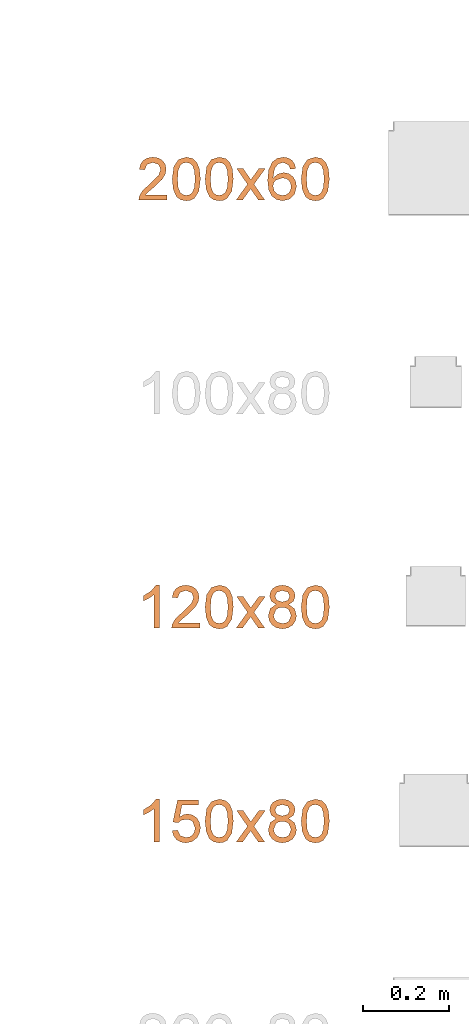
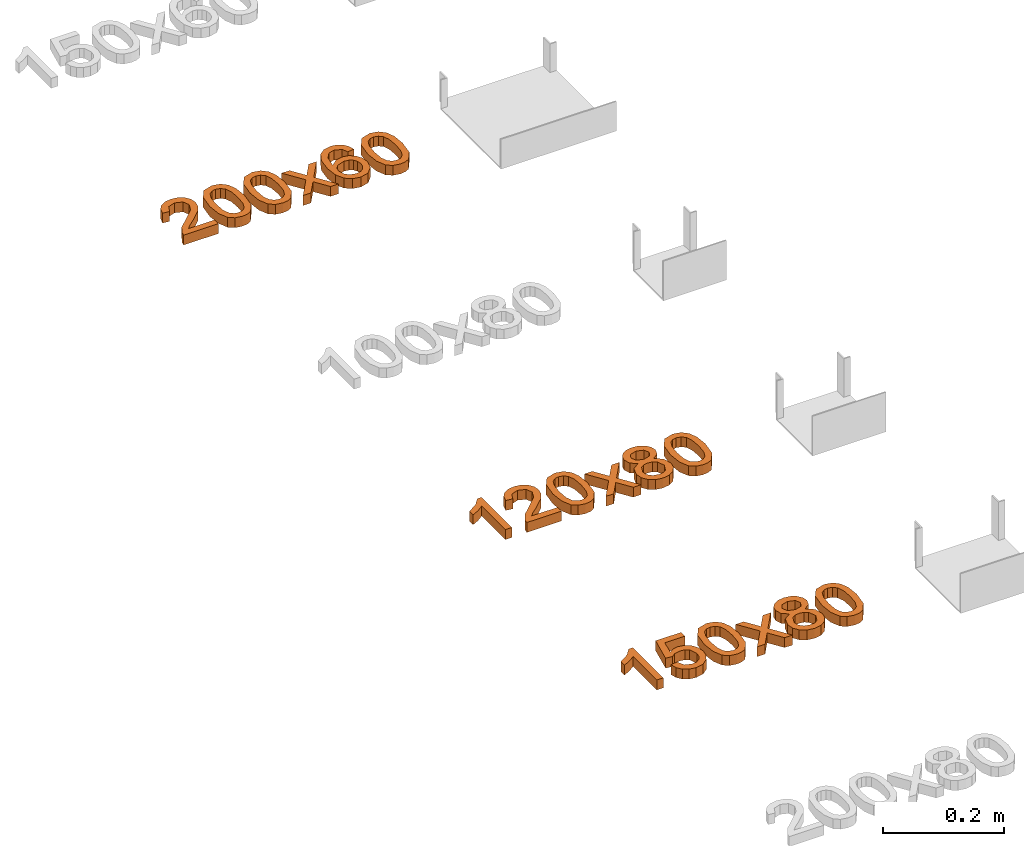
# One storey, part 54 of 71: 3 proxies.
"""IFC2X3 building model written with IfcOpenShell, lengths in millimetres."""

from ifc_helpers import new_model, entity, si_unit, converted_unit, derived_unit, direction, frame, origin, place, context, subcontext, project, spatial, polyline, outline, extrude, element, save


model = new_model("IFC2X3")

# Units and contexts
model_context = context("Model", 3, precision=0.01, world=origin(), true_north=direction((6.12303176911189e-17, 1.0)))
body_context = subcontext(model_context, "Body", "Model", "MODEL_VIEW")
ifc_project = project(units=[si_unit("LENGTHUNIT", "METRE", prefix="MILLI"), si_unit("AREAUNIT", "SQUARE_METRE"), si_unit("VOLUMEUNIT", "CUBIC_METRE"), converted_unit("PLANEANGLEUNIT", "DEGREE", entity("IfcRatioMeasure", 0.0174532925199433), si_unit("PLANEANGLEUNIT", "RADIAN"), dimensions=[0, 0, 0, 0, 0, 0, 0]), si_unit("MASSUNIT", "GRAM", prefix="KILO"), derived_unit("MASSDENSITYUNIT", [(si_unit("MASSUNIT", "GRAM", prefix="KILO"), 1), (si_unit("LENGTHUNIT", "METRE"), -3)]), si_unit("TIMEUNIT", "SECOND"), si_unit("FREQUENCYUNIT", "HERTZ"), si_unit("THERMODYNAMICTEMPERATUREUNIT", "DEGREE_CELSIUS"), derived_unit("THERMALTRANSMITTANCEUNIT", [(si_unit("MASSUNIT", "GRAM", prefix="KILO"), 1), (si_unit("THERMODYNAMICTEMPERATUREUNIT", "KELVIN"), -1), (si_unit("TIMEUNIT", "SECOND"), -3)]), derived_unit("VOLUMETRICFLOWRATEUNIT", [(si_unit("LENGTHUNIT", "METRE"), 3), (si_unit("TIMEUNIT", "SECOND"), -1)]), si_unit("ELECTRICCURRENTUNIT", "AMPERE"), si_unit("ELECTRICVOLTAGEUNIT", "VOLT"), si_unit("POWERUNIT", "WATT"), si_unit("FORCEUNIT", "NEWTON", prefix="KILO"), si_unit("ILLUMINANCEUNIT", "LUX"), si_unit("LUMINOUSFLUXUNIT", "LUMEN"), si_unit("LUMINOUSINTENSITYUNIT", "CANDELA"), derived_unit("USERDEFINED", [(si_unit("MASSUNIT", "GRAM", prefix="KILO"), -1), (si_unit("LENGTHUNIT", "METRE"), -2), (si_unit("TIMEUNIT", "SECOND"), 3), (si_unit("LUMINOUSFLUXUNIT", "LUMEN"), 1)]), derived_unit("LINEARVELOCITYUNIT", [(si_unit("LENGTHUNIT", "METRE"), 1), (si_unit("TIMEUNIT", "SECOND"), -1)]), si_unit("PRESSUREUNIT", "PASCAL"), derived_unit("USERDEFINED", [(si_unit("LENGTHUNIT", "METRE"), -2), (si_unit("MASSUNIT", "GRAM", prefix="KILO"), 1), (si_unit("TIMEUNIT", "SECOND"), -2)])], contexts=[model_context])

# Site, building, storey
site_placement = place(None, origin())
site = spatial("IfcSite", under=ifc_project, at=site_placement, Name="Default", CompositionType="ELEMENT")
building_placement = place(site_placement, origin())
building = spatial("IfcBuilding", under=site, at=building_placement, Name="Наименование здания", CompositionType="ELEMENT")
storey_placement = place(building_placement, origin())
storey = spatial("IfcBuildingStorey", under=building, at=storey_placement, Name="Этаж 01", CompositionType="ELEMENT", Elevation=0.0)

# Proxies
proxy_1_placement = place(storey_placement, origin())
element("IfcBuildingElementProxy", 1, at=proxy_1_placement, inside=storey, Name="Текст модели:100 мм Arial", ObjectType="Текст модели:100 мм Arial", context=body_context, shape_type="SweptSolid", body=[
    extrude(outline(polyline([(-32.3858783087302, -45.1669477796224), (-32.3858783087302, -57.7239865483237), (33.5385752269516, -57.7239865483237), (32.1896745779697, -49.0664969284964), (24.5622545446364, -35.736905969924), (8.84143061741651, -21.1810416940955), (-12.8390816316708, -0.260818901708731), (-18.2592096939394, 13.9639515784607), (-13.1456499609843, 25.4786580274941), (0.208466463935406, 30.1752848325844), (14.1266686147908, 25.5890226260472), (19.4119066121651, 12.9093565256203), (31.9689453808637, 14.4789863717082), (28.9247218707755, 26.6252235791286), (22.3426998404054, 35.4973110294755), (12.5662358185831, 40.9235704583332), (-0.0613136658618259, 42.7323236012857), (-12.7808336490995, 40.7212353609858), (-22.5389035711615, 34.6879706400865), (-28.746912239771, 25.6748617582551), (-30.8162484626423, 14.7242410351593), (-28.5844310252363, 2.81712712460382), (-21.1654774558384, -9.49465698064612), (-3.17604789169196, -26.6992716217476), (11.2694517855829, -38.778063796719), (16.9348345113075, -45.1669477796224), (-32.3858783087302, -45.1669477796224)])), frame((21212.4125507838, -2405.61126925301, 0.0), z_axis=(0.0, 0.0, -1.0), x_axis=(-1.0, 0.0, 0.0)), (0.0, 0.0, -1.0), 20.0),
    extrude(outline(polyline([(-7.02884310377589, -33.3490673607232), (17.5323805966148, -33.3490673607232), (35.1984171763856, -27.6137612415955), (43.3439841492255, -18.4876517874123), (47.0516941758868, -5.7515066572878), (46.7162020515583, 4.48638208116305), (43.4465778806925, 13.0955287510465), (27.9444305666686, 25.6659118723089), (-0.314338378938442, 32.2325535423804), (-24.0296505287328, 32.367828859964), (-39.4143020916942, 28.0260881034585), (-49.7293680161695, 18.9002174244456), (-54.4436715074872, 4.63998875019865), (-50.8676582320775, -14.1301059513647), (-35.405854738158, -26.7333390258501), (-7.02884310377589, -33.3490673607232)]), holes=[polyline([(-5.77428774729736, -20.8548320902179), (-25.0157644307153, -17.3562860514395), (-36.7257089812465, -11.5717922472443), (-41.0962588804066, -4.77599682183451), (-41.9669219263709, 3.21464792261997), (-39.2244253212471, 11.2791292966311), (-32.8654063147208, 17.2229259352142), (-20.9698370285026, 20.2947501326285), (-1.61768958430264, 19.743314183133), (17.8514140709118, 16.270770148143), (28.7803640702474, 10.7141596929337), (33.554698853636, 3.61815959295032), (34.5599568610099, -4.47255337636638), (31.9421230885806, -12.192319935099), (25.8471825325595, -18.1754808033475), (14.0250679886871, -21.4027476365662), (-5.77428774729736, -20.8548320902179)])]), frame((21291.2470054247, -2417.512078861, 0.0), z_axis=(0.0, 0.0, 1.0), x_axis=(0.101851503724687, -0.994799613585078, 0.0)), (0.0, 0.0, 1.0), 20.0),
    extrude(outline(polyline([(-7.02884310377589, -33.3490673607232), (17.5323805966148, -33.3490673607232), (35.1984171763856, -27.6137612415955), (43.3439841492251, -18.4876517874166), (47.0516941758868, -5.7515066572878), (46.7162020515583, 4.48638208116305), (43.4465778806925, 13.0955287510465), (27.9444305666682, 25.6659118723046), (-0.314338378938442, 32.2325535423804), (-24.0296505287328, 32.367828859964), (-39.4143020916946, 28.0260881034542), (-49.7293680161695, 18.9002174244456), (-54.4436715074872, 4.63998875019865), (-50.867658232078, -14.130105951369), (-35.405854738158, -26.7333390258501), (-7.02884310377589, -33.3490673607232)]), holes=[polyline([(-5.7742877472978, -20.8548320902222), (-25.0157644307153, -17.3562860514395), (-36.7257089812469, -11.5717922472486), (-41.096258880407, -4.77599682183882), (-41.9669219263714, 3.21464792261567), (-39.2244253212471, 11.2791292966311), (-32.8654063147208, 17.2229259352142), (-20.969837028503, 20.2947501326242), (-1.61768958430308, 19.7433141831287), (17.8514140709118, 16.270770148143), (28.7803640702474, 10.7141596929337), (33.5546988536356, 3.61815959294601), (34.5599568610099, -4.47255337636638), (31.9421230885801, -12.1923199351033), (25.8471825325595, -18.1754808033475), (14.0250679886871, -21.4027476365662), (-5.7742877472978, -20.8548320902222)])]), frame((21368.158867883, -2417.512078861, 0.0), z_axis=(0.0, 0.0, 1.0), x_axis=(0.101851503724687, -0.994799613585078, 0.0)), (0.0, 0.0, 1.0), 20.0),
    extrude(outline(polyline([(-34.5302215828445, -38.4265006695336), (-19.4225343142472, -38.4265006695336), (-0.341721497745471, -12.0616243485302), (2.47870713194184, -16.1328517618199), (17.8561745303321, -38.4265006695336), (32.9638617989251, -38.4265006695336), (7.40832586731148, -1.34399555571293), (33.9448804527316, 35.3461020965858), (18.8371931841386, 35.3461020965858), (4.95577923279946, 16.1671874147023), (0.0261604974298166, 9.34910777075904), (-5.66374769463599, 17.6877663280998), (-17.8529044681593, 35.3461020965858), (-32.9605917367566, 35.3461020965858), (-7.69936140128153, -1.34399555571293), (-34.5302215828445, -38.4265006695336)])), frame((21441.0005248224, -2424.9087551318, 0.0)), (0.0, 0.0, 1.0), 20.0),
    extrude(outline(polyline([(6.79275401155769, -32.502776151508), (18.3659045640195, -32.502776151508), (28.1525204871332, -28.8011371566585), (35.6312934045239, -21.7178704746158), (40.2809149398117, -11.5729874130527), (41.4130789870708, 3.23667074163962), (36.1391243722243, 16.3729018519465), (21.8599739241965, 28.880326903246), (-1.50836821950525, 38.2054593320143), (-23.6059131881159, 41.7609274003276), (-39.9814227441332, 38.5965283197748), (-51.1650797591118, 29.9216784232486), (-57.6870671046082, 16.945794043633), (-57.9805556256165, -0.0494879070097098), (-49.2081886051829, -14.3141019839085), (-33.6167855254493, -22.9350568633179), (-20.6265742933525, -24.2502330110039), (-8.97800352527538, -20.6254922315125), (0.0919027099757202, -13.0350962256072), (5.34612034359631, -2.45330669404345), (5.85483161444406, 11.6447254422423), (-0.843339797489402, 24.9910631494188), (19.7707676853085, 15.5765036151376), (28.4840991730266, 4.26766164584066), (28.389351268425, -7.46374532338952), (19.9956250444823, -18.1936336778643), (8.63303585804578, -19.982539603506), (6.79275401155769, -32.502776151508)]), holes=[polyline([(-18.7586717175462, 29.954959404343), (-11.6328110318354, 26.3613362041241), (-6.94154076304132, 20.2038317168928), (-5.85783236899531, 4.13761066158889), (-9.48331864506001, -3.95286412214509), (-15.107739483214, -9.26901644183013), (-22.3091633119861, -11.5969098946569), (-30.6656585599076, -10.7226080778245), (-38.6094491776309, -7.06141592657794), (-43.8637090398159, -1.22509865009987), (-46.1835287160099, 6.17768396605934), (-45.3239987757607, 14.5382721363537), (-39.6901171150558, 24.7221971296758), (-30.0168134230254, 30.0585493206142), (-18.7586717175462, 29.954959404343)])]), frame((21516.6584546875, -2404.78751753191, 0.0), z_axis=(0.0, 0.0, 1.0), x_axis=(-0.267015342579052, 0.963692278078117, 0.0)), (0.0, 0.0, 1.0), 20.0),
    extrude(outline(polyline([(-7.02884310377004, -33.3490673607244), (17.5323805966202, -33.3490673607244), (35.1984171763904, -27.6137612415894), (43.3439841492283, -18.487651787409), (47.0516941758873, -5.75150665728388), (46.716202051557, 4.48638208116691), (43.4465778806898, 13.0955287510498), (27.9444305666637, 25.6659118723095), (-0.314338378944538, 32.2325535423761), (-24.0296505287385, 32.3678288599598), (-39.4143020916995, 28.0260881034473), (-49.7293680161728, 18.9002174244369), (-54.4436715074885, 4.63998875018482), (-50.8676582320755, -14.1301059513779), (-35.4058547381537, -26.7333390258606), (-7.02884310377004, -33.3490673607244)]), holes=[polyline([(-5.77428774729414, -20.8548320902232), (-25.0157644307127, -17.3562860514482), (-36.7257089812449, -11.5717922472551), (-41.0962588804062, -4.77599682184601), (-41.966921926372, 3.21464792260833), (-39.2244253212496, 11.2791292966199), (-32.8654063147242, 17.2229259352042), (-20.9698370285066, 20.2947501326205), (-1.61768958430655, 19.7433141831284), (17.8514140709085, 16.2707701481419), (28.7803640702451, 10.7141596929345), (33.5546988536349, 3.61815959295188), (34.5599568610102, -4.47255337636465), (31.9421230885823, -12.1923199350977), (25.8471825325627, -18.175480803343), (14.0250679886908, -21.4027476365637), (-5.77428774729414, -20.8548320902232)])]), frame((21592.6159358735, -2417.512078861, 0.0), z_axis=(0.0, 0.0, 1.0), x_axis=(0.101851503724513, -0.994799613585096, 0.0)), (0.0, 0.0, 1.0), 20.0),
])
proxy_2_placement = place(storey_placement, origin())
element("IfcBuildingElementProxy", 2, at=proxy_2_placement, inside=storey, Name="Текст модели:100 мм Arial", ObjectType="Текст модели:100 мм Arial", context=body_context, shape_type="SweptSolid", body=[
    extrude(outline(polyline([(-63.8793021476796, -16.918484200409), (36.5770080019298, -16.918484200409), (36.5770080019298, -8.82508030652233), (23.2106288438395, 2.34626961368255), (11.4629304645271, 20.7526321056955), (-0.407395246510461, 20.7526321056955), (5.93243780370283, 7.53340574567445), (14.4059864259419, -4.36144543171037), (-63.8793021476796, -4.36144543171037), (-63.8793021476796, -16.918484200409)])), frame((21210.6140165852, -3399.45595365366, 0.0), z_axis=(0.0, 0.0, 1.0), x_axis=(0.0, 1.0, 0.0)), (0.0, 0.0, 1.0), 20.0),
    extrude(outline(polyline([(-32.3858783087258, -45.1669477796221), (-32.3858783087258, -57.7239865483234), (33.5385752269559, -57.7239865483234), (32.1896745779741, -49.0664969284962), (24.5622545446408, -35.7369059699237), (8.84143061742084, -21.1810416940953), (-12.8390816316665, -0.26081890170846), (-18.2592096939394, 13.9639515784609), (-13.1456499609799, 25.4786580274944), (0.208466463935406, 30.1752848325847), (14.1266686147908, 25.5890226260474), (19.4119066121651, 12.9093565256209), (31.968945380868, 14.4789863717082), (28.9247218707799, 26.6252235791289), (22.3426998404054, 35.4973110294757), (12.5662358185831, 40.9235704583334), (-0.0613136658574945, 42.732323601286), (-12.7808336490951, 40.721235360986), (-22.5389035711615, 34.6879706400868), (-28.746912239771, 25.6748617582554), (-30.816248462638, 14.7242410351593), (-28.584431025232, 2.81712712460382), (-21.1654774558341, -9.49465698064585), (-3.17604789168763, -26.6992716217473), (11.2694517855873, -38.7780637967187), (16.9348345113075, -45.1669477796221), (-32.3858783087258, -45.1669477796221)])), frame((21289.3244132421, -3405.61126925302, 0.0), z_axis=(0.0, 0.0, -1.0), x_axis=(-1.0, 0.0, 0.0)), (0.0, 0.0, -1.0), 20.0),
    extrude(outline(polyline([(-7.02884310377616, -33.3490673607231), (17.5323805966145, -33.3490673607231), (35.1984171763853, -27.6137612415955), (43.3439841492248, -18.4876517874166), (47.0516941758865, -5.75150665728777), (46.716202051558, 4.48638208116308), (43.4465778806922, 13.0955287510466), (27.9444305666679, 25.6659118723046), (-0.314338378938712, 32.2325535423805), (-24.0296505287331, 32.367828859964), (-39.4143020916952, 28.0260881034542), (-49.7293680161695, 18.9002174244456), (-54.4436715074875, 4.63998875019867), (-50.867658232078, -14.130105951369), (-35.405854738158, -26.7333390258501), (-7.02884310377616, -33.3490673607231)]), holes=[polyline([(-5.77428774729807, -20.8548320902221), (-25.0157644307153, -17.3562860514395), (-36.7257089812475, -11.5717922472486), (-41.0962588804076, -4.77599682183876), (-41.9669219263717, 3.21464792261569), (-39.2244253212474, 11.2791292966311), (-32.8654063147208, 17.2229259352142), (-20.969837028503, 20.2947501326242), (-1.61768958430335, 19.7433141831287), (17.8514140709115, 16.2707701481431), (28.7803640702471, 10.7141596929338), (33.5546988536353, 3.61815959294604), (34.5599568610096, -4.47255337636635), (31.9421230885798, -12.1923199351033), (25.8471825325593, -18.1754808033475), (14.0250679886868, -21.4027476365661), (-5.77428774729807, -20.8548320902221)])]), frame((21368.158867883, -3417.51207886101, 0.0), z_axis=(0.0, 0.0, 1.0), x_axis=(0.101851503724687, -0.994799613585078, 0.0)), (0.0, 0.0, 1.0), 20.0),
    extrude(outline(polyline([(-34.5302215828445, -38.4265006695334), (-19.4225343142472, -38.4265006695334), (-0.341721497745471, -12.0616243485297), (2.47870713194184, -16.1328517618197), (17.8561745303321, -38.4265006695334), (32.9638617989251, -38.4265006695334), (7.40832586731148, -1.34399555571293), (33.9448804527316, 35.3461020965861), (18.8371931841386, 35.3461020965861), (4.95577923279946, 16.1671874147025), (0.0261604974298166, 9.34910777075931), (-5.66374769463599, 17.6877663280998), (-17.8529044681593, 35.3461020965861), (-32.9605917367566, 35.3461020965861), (-7.69936140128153, -1.34399555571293), (-34.5302215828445, -38.4265006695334)])), frame((21441.0005248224, -3424.90875513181, 0.0)), (0.0, 0.0, 1.0), 20.0),
    extrude(outline(polyline([(10.1224324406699, -11.221212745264), (26.4477736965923, -11.221212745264), (39.6861381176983, -0.0909413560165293), (44.632231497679, 11.3078156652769), (44.585641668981, 23.4168603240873), (39.6073830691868, 34.8346290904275), (29.7584701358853, 44.159558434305), (17.4236057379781, 49.795656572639), (4.9874927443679, 50.1469317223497), (-6.20047708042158, 45.7236060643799), (-14.7909119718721, 37.0359017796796), (-20.0781666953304, 21.0056847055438), (-14.5070621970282, 5.37692494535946), (-28.0684052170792, 5.15563707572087), (-37.7221714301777, -2.60845010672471), (-41.523636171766, -11.9357006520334), (-41.003687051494, -22.2232653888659), (-36.1916154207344, -32.1870777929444), (-27.1167126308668, -40.5430713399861), (-16.0503295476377, -45.8123091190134), (-5.18246445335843, -46.570678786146), (4.38453303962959, -43.2361071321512), (11.5483133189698, -36.2265209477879), (15.2516244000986, -24.0826582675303), (10.1224324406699, -11.221212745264)]), holes=[polyline([(1.3407747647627, -28.9039041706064), (-7.53771017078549, -33.9815875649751), (-20.2415350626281, -30.0339976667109), (-28.5905650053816, -19.6902819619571), (-26.9800933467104, -9.13787919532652), (-18.1108932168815, -3.87648928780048), (-5.45128168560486, -7.8238581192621), (3.15927028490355, -18.2403048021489), (1.3407747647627, -28.9039041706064)]), polyline([(29.0262968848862, 6.5605166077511), (17.1806533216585, -1.51571690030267), (9.68494123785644, -1.27757268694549), (1.95268767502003, 2.32885586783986), (-4.46267094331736, 8.27886886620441), (-7.64161156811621, 15.301055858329), (-4.59707955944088, 29.6929468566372), (7.31333657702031, 37.7994665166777), (14.8367372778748, 37.4872096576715), (22.6595729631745, 33.8012523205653), (30.3730358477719, 25.5864099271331), (32.5711030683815, 15.5727469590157), (29.0262968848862, 6.5605166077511)])]), frame((21514.7737407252, -3411.65422231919, 0.0), z_axis=(0.0, 0.0, 1.0), x_axis=(-0.829266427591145, -0.558853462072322, 0.0)), (0.0, 0.0, 1.0), 20.0),
    extrude(outline(polyline([(-7.02884310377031, -33.3490673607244), (17.5323805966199, -33.3490673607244), (35.1984171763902, -27.6137612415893), (43.343984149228, -18.487651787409), (47.0516941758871, -5.75150665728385), (46.7162020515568, 4.48638208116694), (43.4465778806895, 13.0955287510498), (27.9444305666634, 25.6659118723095), (-0.314338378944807, 32.2325535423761), (-24.0296505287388, 32.3678288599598), (-39.4143020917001, 28.0260881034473), (-49.7293680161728, 18.9002174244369), (-54.4436715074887, 4.63998875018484), (-50.8676582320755, -14.1301059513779), (-35.4058547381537, -26.7333390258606), (-7.02884310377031, -33.3490673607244)]), holes=[polyline([(-5.77428774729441, -20.8548320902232), (-25.0157644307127, -17.3562860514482), (-36.7257089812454, -11.571792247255), (-41.0962588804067, -4.77599682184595), (-41.9669219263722, 3.21464792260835), (-39.2244253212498, 11.27912929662), (-32.8654063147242, 17.2229259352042), (-20.9698370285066, 20.2947501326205), (-1.61768958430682, 19.7433141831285), (17.8514140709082, 16.2707701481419), (28.7803640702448, 10.7141596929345), (33.5546988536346, 3.61815959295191), (34.5599568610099, -4.47255337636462), (31.942123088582, -12.1923199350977), (25.8471825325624, -18.1754808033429), (14.0250679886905, -21.4027476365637), (-5.77428774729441, -20.8548320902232)])]), frame((21592.6159358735, -3417.51207886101, 0.0), z_axis=(0.0, 0.0, 1.0), x_axis=(0.101851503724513, -0.994799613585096, 0.0)), (0.0, 0.0, 1.0), 20.0),
])
proxy_3_placement = place(storey_placement, origin())
element("IfcBuildingElementProxy", 3, at=proxy_3_placement, inside=storey, Name="Текст модели:100 мм Arial", ObjectType="Текст модели:100 мм Arial", context=body_context, shape_type="SweptSolid", body=[
    extrude(outline(polyline([(-63.8793021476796, -16.918484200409), (36.5770080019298, -16.918484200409), (36.5770080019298, -8.82508030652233), (23.2106288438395, 2.34626961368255), (11.4629304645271, 20.7526321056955), (-0.407395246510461, 20.7526321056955), (5.93243780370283, 7.53340574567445), (14.4059864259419, -4.36144543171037), (-63.8793021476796, -4.36144543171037), (-63.8793021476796, -16.918484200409)])), frame((21210.6140165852, -3899.45595365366, 0.0), z_axis=(0.0, 0.0, 1.0), x_axis=(0.0, 1.0, 0.0)), (0.0, 0.0, 1.0), 20.0),
    extrude(outline(polyline([(3.81439562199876, -37.2548959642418), (15.7323946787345, -37.2548959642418), (26.1588137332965, -33.0579698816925), (34.2921694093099, -25.0537205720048), (39.3309783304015, -13.63175089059), (40.2219288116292, 1.43409098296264), (34.3991305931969, 14.6815107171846), (25.5350217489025, 23.1481891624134), (13.9054384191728, 28.2770976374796), (0.912111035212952, 29.4702838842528), (-10.7159258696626, 25.7768606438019), (-19.7427074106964, 18.0989984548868), (-24.9322687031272, 7.33886785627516), (-25.5937300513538, -2.21124798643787), (-22.6370240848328, -12.2793380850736), (-47.9924930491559, 0.0204883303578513), (-38.0977082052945, 37.2324069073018), (-50.2330599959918, 40.4592412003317), (-62.7370428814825, -6.56524698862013), (-15.5021967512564, -30.4943712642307), (-10.7584434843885, -18.76237376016), (-14.4216298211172, -10.4922324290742), (-13.6981616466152, 0.722667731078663), (-9.98738154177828, 9.35727561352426), (-4.32553373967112, 14.6878856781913), (11.4370636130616, 15.9400687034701), (19.7481682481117, 12.2772427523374), (25.4355726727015, 6.40632241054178), (28.0665145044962, -1.27212018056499), (27.2082313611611, -10.3575128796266), (19.6530635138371, -21.9256319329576), (5.52431094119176, -24.7161898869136), (3.81439562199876, -37.2548959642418)])), frame((21292.3790792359, -3923.3917017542, 0.0), z_axis=(0.0, 0.0, 1.0), x_axis=(0.256974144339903, -0.966418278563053, 0.0)), (0.0, 0.0, 1.0), 20.0),
    extrude(outline(polyline([(-7.02884310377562, -33.3490673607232), (17.5323805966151, -33.3490673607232), (35.1984171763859, -27.6137612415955), (43.3439841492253, -18.4876517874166), (47.051694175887, -5.75150665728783), (46.7162020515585, 4.48638208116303), (43.4465778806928, 13.0955287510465), (27.9444305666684, 25.6659118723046), (-0.314338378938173, 32.2325535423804), (-24.0296505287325, 32.367828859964), (-39.4143020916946, 28.0260881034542), (-49.729368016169, 18.9002174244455), (-54.4436715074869, 4.63998875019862), (-50.8676582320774, -14.130105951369), (-35.4058547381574, -26.7333390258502), (-7.02884310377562, -33.3490673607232)]), holes=[polyline([(-5.77428774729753, -20.8548320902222), (-25.0157644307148, -17.3562860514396), (-36.7257089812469, -11.5717922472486), (-41.096258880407, -4.77599682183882), (-41.9669219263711, 3.21464792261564), (-39.2244253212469, 11.2791292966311), (-32.8654063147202, 17.2229259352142), (-20.9698370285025, 20.2947501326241), (-1.61768958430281, 19.7433141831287), (17.851414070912, 16.270770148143), (28.7803640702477, 10.7141596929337), (33.5546988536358, 3.61815959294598), (34.5599568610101, -4.47255337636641), (31.9421230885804, -12.1923199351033), (25.8471825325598, -18.1754808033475), (14.0250679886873, -21.4027476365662), (-5.77428774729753, -20.8548320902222)])]), frame((21368.158867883, -3917.512078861, 0.0), z_axis=(0.0, 0.0, 1.0), x_axis=(0.101851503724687, -0.994799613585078, 0.0)), (0.0, 0.0, 1.0), 20.0),
    extrude(outline(polyline([(-34.5302215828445, -38.4265006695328), (-19.4225343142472, -38.4265006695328), (-0.341721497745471, -12.0616243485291), (2.47870713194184, -16.1328517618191), (17.8561745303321, -38.4265006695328), (32.9638617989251, -38.4265006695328), (7.40832586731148, -1.34399555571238), (33.9448804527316, 35.3461020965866), (18.8371931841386, 35.3461020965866), (4.95577923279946, 16.1671874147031), (0.0261604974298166, 9.34910777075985), (-5.66374769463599, 17.6877663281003), (-17.8529044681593, 35.3461020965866), (-32.9605917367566, 35.3461020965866), (-7.69936140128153, -1.34399555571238), (-34.5302215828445, -38.4265006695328)])), frame((21441.0005248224, -3924.90875513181, 0.0)), (0.0, 0.0, 1.0), 20.0),
    extrude(outline(polyline([(10.1224324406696, -11.2212127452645), (26.447773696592, -11.2212127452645), (39.686138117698, -0.0909413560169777), (44.6322314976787, 11.3078156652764), (44.5856416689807, 23.4168603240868), (39.6073830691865, 34.834629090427), (29.7584701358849, 44.1595584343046), (17.4236057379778, 49.7956565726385), (4.9874927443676, 50.1469317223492), (-6.20047708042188, 45.7236060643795), (-14.7909119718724, 37.0359017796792), (-20.0781666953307, 21.0056847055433), (-14.5070621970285, 5.37692494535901), (-28.0684052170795, 5.15563707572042), (-37.722171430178, -2.60845010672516), (-41.5236361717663, -11.9357006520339), (-41.0036870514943, -22.2232653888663), (-36.1916154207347, -32.1870777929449), (-27.1167126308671, -40.5430713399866), (-16.050329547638, -45.8123091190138), (-5.18246445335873, -46.5706787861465), (4.38453303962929, -43.2361071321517), (11.5483133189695, -36.2265209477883), (15.2516244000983, -24.0826582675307), (10.1224324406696, -11.2212127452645)]), holes=[polyline([(29.0262968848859, 6.56051660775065), (17.1806533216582, -1.51571690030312), (9.68494123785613, -1.27757268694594), (1.95268767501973, 2.32885586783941), (-4.46267094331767, 8.27886886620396), (-7.64161156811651, 15.3010558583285), (-4.59707955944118, 29.6929468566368), (7.31333657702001, 37.7994665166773), (14.8367372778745, 37.4872096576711), (22.6595729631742, 33.8012523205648), (30.3730358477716, 25.5864099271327), (32.5711030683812, 15.5727469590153), (29.0262968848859, 6.56051660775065)]), polyline([(1.3407747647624, -28.9039041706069), (-7.53771017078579, -33.9815875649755), (-20.2415350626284, -30.0339976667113), (-28.5905650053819, -19.6902819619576), (-26.9800933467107, -9.13787919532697), (-18.1108932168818, -3.87648928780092), (-5.45128168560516, -7.82385811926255), (3.15927028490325, -18.2403048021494), (1.3407747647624, -28.9039041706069)])]), frame((21514.7737407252, -3911.65422231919, 0.0), z_axis=(0.0, 0.0, 1.0), x_axis=(-0.829266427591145, -0.558853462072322, 0.0)), (0.0, 0.0, 1.0), 20.0),
    extrude(outline(polyline([(-7.02884310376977, -33.3490673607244), (17.5323805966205, -33.3490673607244), (35.1984171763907, -27.6137612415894), (43.3439841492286, -18.4876517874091), (47.0516941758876, -5.75150665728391), (46.7162020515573, 4.48638208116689), (43.44657788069, 13.0955287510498), (27.9444305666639, 25.6659118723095), (-0.314338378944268, 32.232553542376), (-24.0296505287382, 32.3678288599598), (-39.4143020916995, 28.0260881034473), (-49.7293680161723, 18.9002174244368), (-54.4436715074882, 4.63998875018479), (-50.8676582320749, -14.1301059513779), (-35.4058547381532, -26.7333390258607), (-7.02884310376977, -33.3490673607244)]), holes=[polyline([(-5.77428774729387, -20.8548320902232), (-25.0157644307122, -17.3562860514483), (-36.7257089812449, -11.5717922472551), (-41.0962588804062, -4.77599682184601), (-41.9669219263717, 3.2146479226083), (-39.2244253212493, 11.2791292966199), (-32.8654063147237, 17.2229259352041), (-20.969837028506, 20.2947501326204), (-1.61768958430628, 19.7433141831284), (17.8514140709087, 16.2707701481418), (28.7803640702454, 10.7141596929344), (33.5546988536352, 3.61815959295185), (34.5599568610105, -4.47255337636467), (31.9421230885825, -12.1923199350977), (25.847182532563, -18.175480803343), (14.0250679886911, -21.4027476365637), (-5.77428774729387, -20.8548320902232)])]), frame((21592.6159358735, -3917.512078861, 0.0), z_axis=(0.0, 0.0, 1.0), x_axis=(0.101851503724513, -0.994799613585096, 0.0)), (0.0, 0.0, 1.0), 20.0),
])

save(model, "model.ifc")
